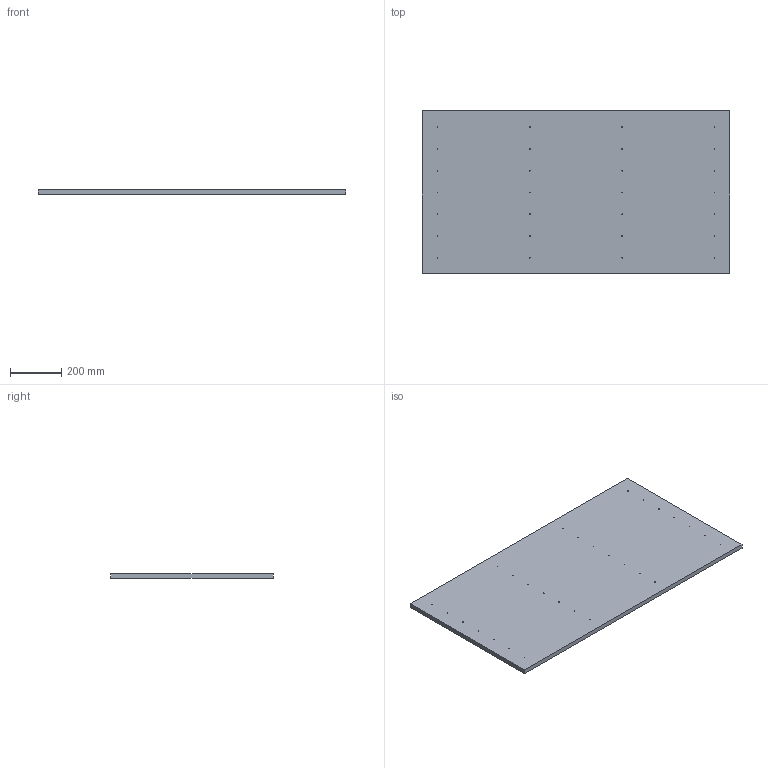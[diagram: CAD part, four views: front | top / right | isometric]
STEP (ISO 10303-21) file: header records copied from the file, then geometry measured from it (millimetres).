
FILE_DESCRIPTION(('Open CASCADE Model'),'2;1');
FILE_NAME('Open CASCADE Shape Model','2026-09-27T09:36:25',('Author'),( 'Open CASCADE'),'Open CASCADE STEP processor 7.9','Open CASCADE 7.9' ,'Unknown');
FILE_SCHEMA(('AUTOMOTIVE_DESIGN { 1 0 10303 214 1 1 1 1 }'));
Length unit declared in the file: millimetre
Products named in the file (1): Open CASCADE STEP translator 7.9 3
Bounding box: 1200 x 633.69 x 18 mm (x, y, z)
Volume: 13685165 mm3; surface area: 1590545 mm2
Topology: 1 solids, 1 shells, 34 faces, 96 edges, 64 vertices
Faces by surface type: cylinder 28, plane 6
Full cylindrical faces by diameter (mm): 2.5 x28
Entity records: 2506 total; most frequent: DIRECTION 414, CARTESIAN_POINT 387, ORIENTED_EDGE 192, PCURVE 192, DEFINITIONAL_REPRESENTATION 192, LINE 176, VECTOR 176, CIRCLE 112
